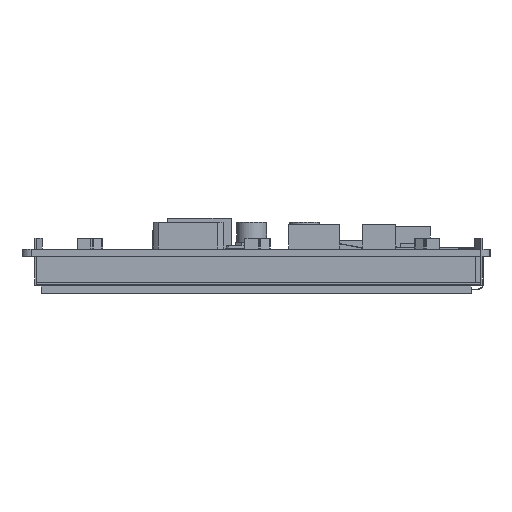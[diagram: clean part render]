
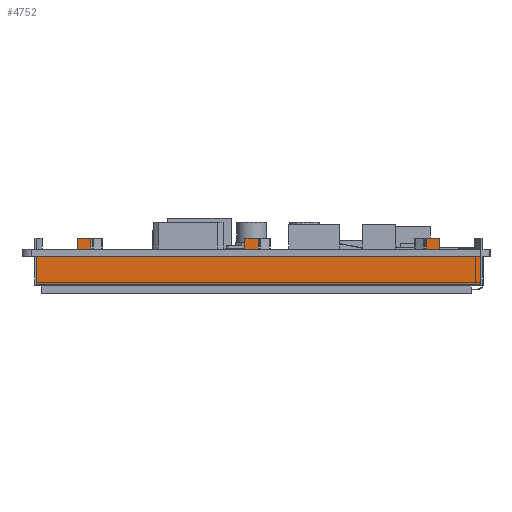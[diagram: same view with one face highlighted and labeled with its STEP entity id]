
A CAD part, left-side view. The second image highlights one B-rep face of the part: STEP entity #4752.
In plain terms, the highlighted planar face has unit normal (-1, 0, 0).
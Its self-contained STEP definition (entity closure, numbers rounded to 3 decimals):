
#4752=ADVANCED_FACE('',(#7896),#6261,.F.);
#6261=PLANE('',#37766);
#7896=FACE_OUTER_BOUND('',#9652,.T.);
#9652=EDGE_LOOP('',(#18288,#18289,#18290,#18291,#18292,#18293,#18294,#18295,
#18296,#18297,#18298,#18299,#18300,#18301,#18302,#18303,#18304,#18305,#18306));
#18288=ORIENTED_EDGE('',*,*,#26769,.T.);
#18289=ORIENTED_EDGE('',*,*,#26780,.T.);
#18290=ORIENTED_EDGE('',*,*,#26781,.F.);
#18291=ORIENTED_EDGE('',*,*,#26782,.T.);
#18292=ORIENTED_EDGE('',*,*,#26783,.F.);
#18293=ORIENTED_EDGE('',*,*,#26767,.T.);
#18294=ORIENTED_EDGE('',*,*,#26784,.T.);
#18295=ORIENTED_EDGE('',*,*,#26785,.F.);
#18296=ORIENTED_EDGE('',*,*,#26786,.F.);
#18297=ORIENTED_EDGE('',*,*,#26787,.T.);
#18298=ORIENTED_EDGE('',*,*,#26775,.T.);
#18299=ORIENTED_EDGE('',*,*,#26788,.T.);
#18300=ORIENTED_EDGE('',*,*,#26789,.F.);
#18301=ORIENTED_EDGE('',*,*,#26790,.F.);
#18302=ORIENTED_EDGE('',*,*,#26791,.T.);
#18303=ORIENTED_EDGE('',*,*,#26779,.T.);
#18304=ORIENTED_EDGE('',*,*,#26792,.F.);
#18305=ORIENTED_EDGE('',*,*,#26793,.F.);
#18306=ORIENTED_EDGE('',*,*,#26794,.T.);
#22188=VERTEX_POINT('',#55363);
#22190=VERTEX_POINT('',#55367);
#22191=VERTEX_POINT('',#55371);
#22193=VERTEX_POINT('',#55374);
#22196=VERTEX_POINT('',#55381);
#22198=VERTEX_POINT('',#55385);
#22200=VERTEX_POINT('',#55390);
#22202=VERTEX_POINT('',#55394);
#22203=VERTEX_POINT('',#55398);
#22204=VERTEX_POINT('',#55400);
#22205=VERTEX_POINT('',#55402);
#22206=VERTEX_POINT('',#55405);
#22207=VERTEX_POINT('',#55407);
#22208=VERTEX_POINT('',#55409);
#22209=VERTEX_POINT('',#55412);
#22210=VERTEX_POINT('',#55414);
#22211=VERTEX_POINT('',#55416);
#22212=VERTEX_POINT('',#55419);
#22213=VERTEX_POINT('',#55421);
#26767=EDGE_CURVE('',#22188,#22190,#31166,.T.);
#26769=EDGE_CURVE('',#22193,#22191,#31168,.T.);
#26775=EDGE_CURVE('',#22196,#22198,#31174,.T.);
#26779=EDGE_CURVE('',#22200,#22202,#31178,.T.);
#26780=EDGE_CURVE('',#22191,#22203,#31179,.T.);
#26781=EDGE_CURVE('',#22204,#22203,#31180,.T.);
#26782=EDGE_CURVE('',#22204,#22205,#31181,.T.);
#26783=EDGE_CURVE('',#22188,#22205,#31182,.T.);
#26784=EDGE_CURVE('',#22190,#22206,#31183,.T.);
#26785=EDGE_CURVE('',#22207,#22206,#31184,.T.);
#26786=EDGE_CURVE('',#22208,#22207,#31185,.T.);
#26787=EDGE_CURVE('',#22208,#22196,#31186,.T.);
#26788=EDGE_CURVE('',#22198,#22209,#31187,.T.);
#26789=EDGE_CURVE('',#22210,#22209,#31188,.T.);
#26790=EDGE_CURVE('',#22211,#22210,#31189,.T.);
#26791=EDGE_CURVE('',#22211,#22200,#31190,.T.);
#26792=EDGE_CURVE('',#22212,#22202,#31191,.T.);
#26793=EDGE_CURVE('',#22213,#22212,#31192,.T.);
#26794=EDGE_CURVE('',#22213,#22193,#31193,.T.);
#31166=LINE('',#55368,#35486);
#31168=LINE('',#55373,#35488);
#31174=LINE('',#55386,#35494);
#31178=LINE('',#55395,#35498);
#31179=LINE('',#55397,#35499);
#31180=LINE('',#55399,#35500);
#31181=LINE('',#55401,#35501);
#31182=LINE('',#55403,#35502);
#31183=LINE('',#55404,#35503);
#31184=LINE('',#55406,#35504);
#31185=LINE('',#55408,#35505);
#31186=LINE('',#55410,#35506);
#31187=LINE('',#55411,#35507);
#31188=LINE('',#55413,#35508);
#31189=LINE('',#55415,#35509);
#31190=LINE('',#55417,#35510);
#31191=LINE('',#55418,#35511);
#31192=LINE('',#55420,#35512);
#31193=LINE('',#55422,#35513);
#35486=VECTOR('',#45455,1.);
#35488=VECTOR('',#45459,1.);
#35494=VECTOR('',#45467,1.);
#35498=VECTOR('',#45473,1.);
#35499=VECTOR('',#45476,1.);
#35500=VECTOR('',#45477,1.);
#35501=VECTOR('',#45478,1.);
#35502=VECTOR('',#45479,1.);
#35503=VECTOR('',#45480,1.);
#35504=VECTOR('',#45481,1.);
#35505=VECTOR('',#45482,1.);
#35506=VECTOR('',#45483,1.);
#35507=VECTOR('',#45484,1.);
#35508=VECTOR('',#45485,1.);
#35509=VECTOR('',#45486,1.);
#35510=VECTOR('',#45487,1.);
#35511=VECTOR('',#45488,1.);
#35512=VECTOR('',#45489,1.);
#35513=VECTOR('',#45490,1.);
#37766=AXIS2_PLACEMENT_3D('',#55423,#45491,#45492);
#45455=DIRECTION('',(0.,1.,0.));
#45459=DIRECTION('',(0.,1.,0.));
#45467=DIRECTION('',(0.,1.,0.));
#45473=DIRECTION('',(0.,1.,0.));
#45476=DIRECTION('',(0.,0.,1.));
#45477=DIRECTION('',(0.,-1.,0.));
#45478=DIRECTION('',(0.,0.,-1.));
#45479=DIRECTION('',(0.,0.,1.));
#45480=DIRECTION('',(0.,0.,1.));
#45481=DIRECTION('',(0.,0.,-1.));
#45482=DIRECTION('',(0.,-1.,0.));
#45483=DIRECTION('',(0.,0.,-1.));
#45484=DIRECTION('',(0.,0.,1.));
#45485=DIRECTION('',(0.,0.,-1.));
#45486=DIRECTION('',(0.,-1.,0.));
#45487=DIRECTION('',(0.,0.,-1.));
#45488=DIRECTION('',(0.,0.,1.));
#45489=DIRECTION('',(0.,1.,0.));
#45490=DIRECTION('',(0.,0.,1.));
#45491=DIRECTION('',(1.,0.,0.));
#45492=DIRECTION('',(0.,-1.,0.));
#55363=CARTESIAN_POINT('',(435.624,-41.014,-1.6));
#55367=CARTESIAN_POINT('',(435.624,-3.188,-1.6));
#55368=CARTESIAN_POINT('',(435.624,-53.245,-1.6));
#55371=CARTESIAN_POINT('',(435.624,-44.038,-1.6));
#55373=CARTESIAN_POINT('',(435.624,-53.245,-1.6));
#55374=CARTESIAN_POINT('',(435.624,-53.245,-1.6));
#55381=CARTESIAN_POINT('',(435.624,-0.18,-1.6));
#55385=CARTESIAN_POINT('',(435.624,34.5,-1.6));
#55386=CARTESIAN_POINT('',(435.624,-53.245,-1.6));
#55390=CARTESIAN_POINT('',(435.624,37.54,-1.6));
#55394=CARTESIAN_POINT('',(435.624,46.775,-1.6));
#55395=CARTESIAN_POINT('',(435.624,-53.245,-1.6));
#55397=CARTESIAN_POINT('',(435.624,-44.038,-1.6));
#55398=CARTESIAN_POINT('',(435.624,-44.038,2.4));
#55399=CARTESIAN_POINT('',(435.624,-41.014,2.4));
#55400=CARTESIAN_POINT('',(435.624,-41.014,2.4));
#55401=CARTESIAN_POINT('',(435.624,-41.014,2.4));
#55402=CARTESIAN_POINT('',(435.624,-41.014,0.));
#55403=CARTESIAN_POINT('',(435.624,-41.014,-1.6));
#55404=CARTESIAN_POINT('',(435.624,-3.188,-1.6));
#55405=CARTESIAN_POINT('',(435.624,-3.188,0.));
#55406=CARTESIAN_POINT('',(435.624,-3.188,2.4));
#55407=CARTESIAN_POINT('',(435.624,-3.188,2.4));
#55408=CARTESIAN_POINT('',(435.624,-0.18,2.4));
#55409=CARTESIAN_POINT('',(435.624,-0.18,2.4));
#55410=CARTESIAN_POINT('',(435.624,-0.18,2.4));
#55411=CARTESIAN_POINT('',(435.624,34.5,-1.6));
#55412=CARTESIAN_POINT('',(435.624,34.5,0.));
#55413=CARTESIAN_POINT('',(435.624,34.5,2.4));
#55414=CARTESIAN_POINT('',(435.624,34.5,2.4));
#55415=CARTESIAN_POINT('',(435.624,37.54,2.4));
#55416=CARTESIAN_POINT('',(435.624,37.54,2.4));
#55417=CARTESIAN_POINT('',(435.624,37.54,2.4));
#55418=CARTESIAN_POINT('',(435.624,46.775,-7.9));
#55419=CARTESIAN_POINT('',(435.624,46.775,-7.9));
#55420=CARTESIAN_POINT('',(435.624,-53.245,-7.9));
#55421=CARTESIAN_POINT('',(435.624,-53.245,-7.9));
#55422=CARTESIAN_POINT('',(435.624,-53.245,-7.9));
#55423=CARTESIAN_POINT('',(435.624,-53.245,-7.9));
